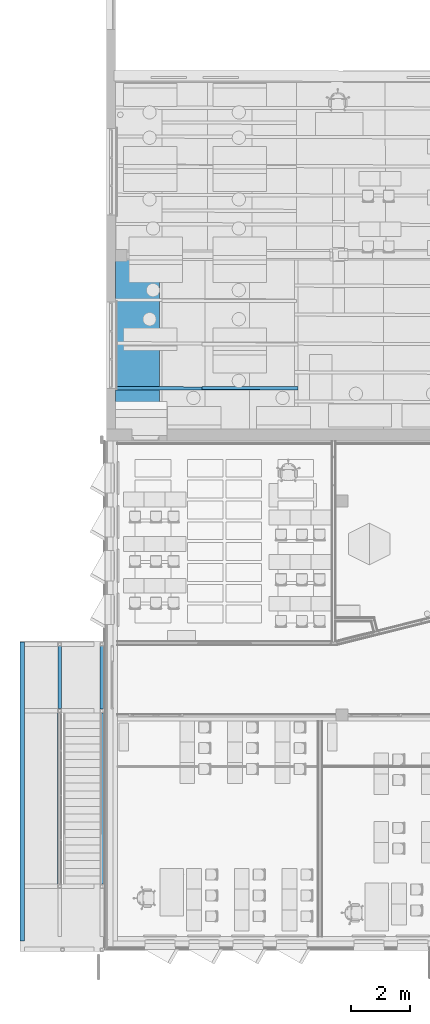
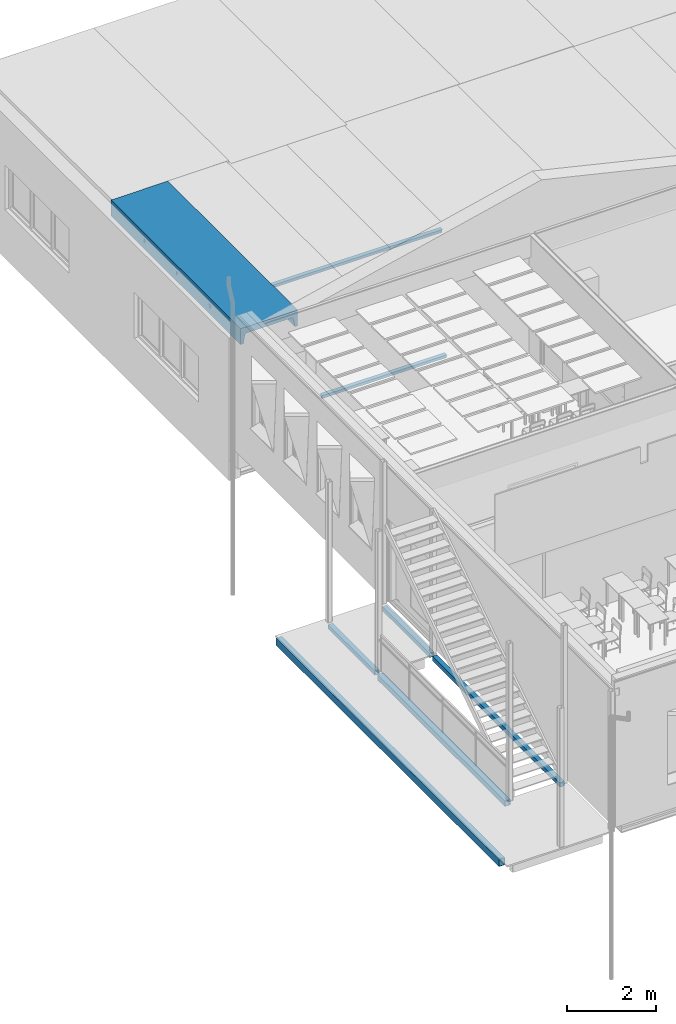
# One storey, part 13 of 153: 8 beams.
"""IFC2X3 building model written with IfcOpenShell, lengths in millimetres."""

from ifc_helpers import new_model, entity, si_unit, converted_unit, derived_unit, money_unit, direction, frame, origin_with_axes, place, context, subcontext, project, spatial, faceted_brep, material, type_object, element, save


model = new_model("IFC2X3")

# Units and contexts
model_context = context("Model", 3, precision=0.01, world=origin_with_axes(), true_north=direction((0.0, 1.0)))
body_context = subcontext(model_context, "Body", "Model", "MODEL_VIEW")
ifc_project = project(units=[si_unit("LENGTHUNIT", "METRE", prefix="MILLI"), si_unit("AREAUNIT", "SQUARE_METRE"), si_unit("VOLUMEUNIT", "CUBIC_METRE"), converted_unit("PLANEANGLEUNIT", "DEGREE", entity("IfcPlaneAngleMeasure", 0.0174532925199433), si_unit("PLANEANGLEUNIT", "RADIAN"), dimensions=[0, 0, 0, 0, 0, 0, 0]), money_unit("EUR"), converted_unit("TIMEUNIT", "Year", entity("IfcTimeMeasure", 31557600.0), si_unit("TIMEUNIT", "SECOND"), dimensions=[0, 0, 1, 0, 0, 0, 0]), si_unit("MASSUNIT", "GRAM", prefix="KILO"), si_unit("THERMODYNAMICTEMPERATUREUNIT", "DEGREE_CELSIUS"), si_unit("LUMINOUSINTENSITYUNIT", "LUMEN"), si_unit("ENERGYUNIT", "JOULE", prefix="MEGA"), derived_unit("THERMALCONDUCTANCEUNIT", [(si_unit("POWERUNIT", "WATT"), 1), (si_unit("LENGTHUNIT", "METRE"), -1), (si_unit("THERMODYNAMICTEMPERATUREUNIT", "KELVIN"), -1)]), derived_unit("SPECIFICHEATCAPACITYUNIT", [(si_unit("ENERGYUNIT", "JOULE"), 1), (si_unit("MASSUNIT", "GRAM", prefix="KILO"), -1), (si_unit("THERMODYNAMICTEMPERATUREUNIT", "KELVIN"), -1)]), derived_unit("MASSDENSITYUNIT", [(si_unit("MASSUNIT", "GRAM", prefix="KILO"), 1), (si_unit("VOLUMEUNIT", "CUBIC_METRE"), -1)])], contexts=[model_context])

# Site, building, storey
site_placement = place(None, frame((0.0, 0.0, 8650.0), z_axis=(0.0, 0.0, 1.0), x_axis=(1.0, 0.0, 0.0)))
site = spatial("IfcSite", under=ifc_project, at=site_placement, Name="43301:001:0844", CompositionType="ELEMENT")
building_placement = place(site_placement, origin_with_axes())
building = spatial("IfcBuilding", under=site, at=building_placement, Name="Kuressaare Ametikooli tuulikute mehaanikute õppekorpus", CompositionType="ELEMENT")
storey_placement = place(building_placement, frame((0.0, 0.0, 4100.0), z_axis=(0.0, 0.0, 1.0), x_axis=(1.0, 0.0, 0.0)))
storey = spatial("IfcBuildingStorey", under=building, at=storey_placement, Name="2.korrus", CompositionType="ELEMENT", Elevation=4100.0)

# Beams
ifc_material_1 = material(Name="STEEL/S355")
beam_type_1 = type_object("IfcBeamType", Name="IFC Footing Extruded", PredefinedType="NOTDEFINED")
beam_1_placement = place(storey_placement, frame((87796.2273876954, 16638.83806945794, -119.9999999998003), z_axis=(0.0, 0.0, 1.0), x_axis=(0.0, -1.0, 0.0)))
element("IfcBeam", 1, at=beam_1_placement, inside=storey, type_object=beam_type_1, material=ifc_material_1, Name="RAAM", context=body_context, shape_type="Brep", body=[
    faceted_brep([(5740.00000000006, 60.0, -60.0), (5740.00000000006, -60.0, -60.0), (0.0, -60.00000000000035, -59.99999999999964), (0.0, 59.99999999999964, -59.99999999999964), (5740.00000000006, 60.0, 60.0), (5740.00000000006, -60.0, 60.0), (5740.00000000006, 55.0, -55.0), (5740.00000000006, -55.0, -55.0), (5740.00000000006, -55.0, 55.0), (5740.00000000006, 55.0, 55.0), (0.0, -60.00000000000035, 60.00000000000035), (0.0, 59.99999999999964, 60.00000000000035), (0.0, 54.99999999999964, -54.99999999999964), (0.0, 54.99999999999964, 55.00000000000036), (0.0, -55.00000000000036, 55.00000000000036), (0.0, -55.00000000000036, -54.99999999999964)], [[[0, 1, 2, 3]], [[0, 4, 5, 1], [6, 7, 8, 9]], [[1, 5, 10, 2]], [[3, 2, 10, 11], [12, 13, 14, 15]], [[4, 0, 3, 11]], [[5, 4, 11, 10]], [[7, 6, 12, 15]], [[8, 7, 15, 14]], [[9, 8, 14, 13]], [[6, 9, 13, 12]]]),
])
beam_2_placement = place(storey_placement, frame((87796.2280694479, 16773.83806945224, -119.9999999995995), z_axis=(0.0, 0.0, 1.0), x_axis=(0.0, 1.0, 0.0)))
element("IfcBeam", 2, at=beam_2_placement, inside=storey, type_object=beam_type_1, material=ifc_material_1, Name="RAAM", context=body_context, shape_type="Brep", body=[
    faceted_brep([(2119.23999999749, 60.0, -60.0), (2119.23999999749, -60.0, -60.0), (-2.509548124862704e-09, -60.00000000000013, -59.99999999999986), (-2.509548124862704e-09, 59.99999999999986, -59.99999999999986), (2119.23999999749, 60.0, 60.0), (2119.23999999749, -60.0, 60.0), (2119.23999999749, 55.0, -55.0), (2119.23999999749, -55.0, -55.0), (2119.23999999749, -55.0, 55.0), (2119.23999999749, 55.0, 55.0), (-2.509548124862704e-09, -60.00000000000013, 60.00000000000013), (-2.509548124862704e-09, 59.99999999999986, 60.00000000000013), (-2.509548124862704e-09, 54.99999999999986, -54.99999999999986), (-2.509548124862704e-09, 54.99999999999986, 55.00000000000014), (-2.509548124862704e-09, -55.00000000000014, 55.00000000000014), (-2.509548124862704e-09, -55.00000000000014, -54.99999999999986)], [[[0, 1, 2, 3]], [[0, 4, 5, 1], [6, 7, 8, 9]], [[1, 5, 10, 2]], [[3, 2, 10, 11], [12, 13, 14, 15]], [[4, 0, 3, 11]], [[5, 4, 11, 10]], [[7, 6, 12, 15]], [[8, 7, 15, 14]], [[9, 8, 14, 13]], [[6, 9, 13, 12]]]),
])
beam_3_placement = place(storey_placement, frame((86381.22664518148, 16638.83806945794, -134.9999999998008), z_axis=(0.0, 0.0, 1.0), x_axis=(0.0, -1.0, 0.0)))
element("IfcBeam", 3, at=beam_3_placement, inside=storey, type_object=beam_type_1, material=ifc_material_1, Name="RAAM", context=body_context, shape_type="Brep", body=[
    faceted_brep([(5740.00000000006, 75.0, -75.0), (5740.00000000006, -75.0, -75.0), (0.0, -75.00000000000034, -74.99999999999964), (0.0, 74.99999999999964, -74.99999999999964), (5740.00000000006, 75.0, 75.0), (5740.00000000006, -75.0, 75.0), (5740.00000000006, 68.99999999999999, -68.99999999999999), (5740.00000000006, -68.99999999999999, -68.99999999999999), (5740.00000000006, -68.99999999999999, 68.99999999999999), (5740.00000000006, 68.99999999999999, 68.99999999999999), (0.0, -75.00000000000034, 75.00000000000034), (0.0, 74.99999999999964, 75.00000000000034), (0.0, 68.99999999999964, -68.99999999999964), (0.0, 68.99999999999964, 69.00000000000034), (0.0, -69.00000000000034, 69.00000000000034), (0.0, -69.00000000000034, -68.99999999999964)], [[[0, 1, 2, 3]], [[0, 4, 5, 1], [6, 7, 8, 9]], [[1, 5, 10, 2]], [[3, 2, 10, 11], [12, 13, 14, 15]], [[4, 0, 3, 11]], [[5, 4, 11, 10]], [[7, 6, 12, 15]], [[8, 7, 15, 14]], [[9, 8, 14, 13]], [[6, 9, 13, 12]]]),
])
beam_4_placement = place(storey_placement, frame((86381.22732693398, 16788.83806945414, -119.9999999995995), z_axis=(0.0, 0.0, 1.0), x_axis=(0.0, 1.0, 0.0)))
element("IfcBeam", 4, at=beam_4_placement, inside=storey, type_object=beam_type_1, material=ifc_material_1, Name="RAAM", context=body_context, shape_type="Brep", body=[
    faceted_brep([(2104.23999999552, 60.0, -60.0), (2104.23999999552, -60.0, -60.0), (-4.479971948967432e-09, -60.00000000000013, -59.99999999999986), (-4.479971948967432e-09, 59.99999999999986, -59.99999999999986), (2104.23999999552, 60.0, 60.0), (2104.23999999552, -60.0, 60.0), (2104.23999999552, 55.0, -55.0), (2104.23999999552, -55.0, -55.0), (2104.23999999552, -55.0, 55.0), (2104.23999999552, 55.0, 55.0), (-4.479971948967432e-09, -60.00000000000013, 60.00000000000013), (-4.479971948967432e-09, 59.99999999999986, 60.00000000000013), (-4.479971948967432e-09, 54.99999999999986, -54.99999999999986), (-4.479971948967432e-09, 54.99999999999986, 55.00000000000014), (-4.479971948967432e-09, -55.00000000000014, 55.00000000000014), (-4.479971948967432e-09, -55.00000000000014, -54.99999999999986)], [[[0, 1, 2, 3]], [[0, 4, 5, 1], [6, 7, 8, 9]], [[1, 5, 10, 2]], [[3, 2, 10, 11], [12, 13, 14, 15]], [[4, 0, 3, 11]], [[5, 4, 11, 10]], [[7, 6, 12, 15]], [[8, 7, 15, 14]], [[9, 8, 14, 13]], [[6, 9, 13, 12]]]),
])
beam_5_placement = place(storey_placement, frame((85121.22662386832, 19023.83806945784, -159.9999999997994), z_axis=(0.0, 0.0, 1.0), x_axis=(0.0, -1.0, 0.0)))
element("IfcBeam", 5, at=beam_5_placement, inside=storey, type_object=beam_type_1, material=ifc_material_1, Name="RAAM", context=body_context, shape_type="Brep", body=[
    faceted_brep([(10040.0, 75.0, -100.0), (10040.0, -75.0, -100.0), (0.0, -75.00000000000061, -99.99999999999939), (0.0, 74.99999999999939, -99.99999999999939), (10040.0, 75.0, 100.0), (10040.0, -75.0, 100.0), (10040.0, 68.99999999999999, -94.0), (10040.0, -68.99999999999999, -94.0), (10040.0, -68.99999999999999, 94.0), (10040.0, 68.99999999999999, 94.0), (0.0, -75.00000000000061, 100.0000000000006), (0.0, 74.99999999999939, 100.0000000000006), (0.0, 68.99999999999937, -93.99999999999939), (0.0, 68.99999999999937, 94.00000000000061), (0.0, -69.0000000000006, 94.00000000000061), (0.0, -69.0000000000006, -93.99999999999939)], [[[0, 1, 2, 3]], [[0, 4, 5, 1], [6, 7, 8, 9]], [[1, 5, 10, 2]], [[3, 2, 10, 11], [12, 13, 14, 15]], [[4, 0, 3, 11]], [[5, 4, 11, 10]], [[7, 6, 12, 15]], [[8, 7, 15, 14]], [[9, 8, 14, 13]], [[6, 9, 13, 12]]]),
])
ifc_material_2 = material(Name="GENEERILINE - KONSTRUKTRIOON")
beam_type_2 = type_object("IfcBeamType", Name="Precast Double Tee 2 1480 x 440", PredefinedType="NOTDEFINED")
beam_6_placement = place(storey_placement, frame((88998.75644683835, 32034.33665916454, 2975.0), z_axis=(0.0, 0.0, 1.0), x_axis=(-1.0, 0.0, 0.0)))
element("IfcBeam", 6, at=beam_6_placement, inside=storey, type_object=beam_type_2, material=ifc_material_2, context=body_context, shape_type="Brep", body=[
    faceted_brep([(665.9999970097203, 5851.267735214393, -440.0001340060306), (665.9999970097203, 125.1318435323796, -440.0001340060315), (665.2237829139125, 125.1297083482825, -434.9999999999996), (665.2237829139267, 119.6455667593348, -434.9999999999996), (637.8143926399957, 119.5473676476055, -258.4370837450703), (632.8231505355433, 138.7509672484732, -226.2850273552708), (631.9059644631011, 143.3008230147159, -220.376794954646), (631.9059644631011, 1472.683598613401, -220.376794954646), (639.8909784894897, 1484.844101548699, -271.8138152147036), (639.8909784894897, 1524.844244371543, -271.8138152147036), (631.9059644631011, 1537.046886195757, -220.376794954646), (631.9059644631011, 2928.433056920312, -220.376794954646), (639.8909784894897, 2940.593559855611, -271.8138152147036), (639.8909784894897, 2980.593702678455, -271.8138152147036), (631.9059644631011, 2992.796344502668, -220.376794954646), (631.9059644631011, 4438.240215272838, -220.376794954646), (639.8909784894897, 4450.400718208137, -271.8138152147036), (639.8909784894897, 4490.400861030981, -271.8138152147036), (631.9059644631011, 4502.603502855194, -220.376794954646), (631.9059644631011, 5851.267735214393, -220.376794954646), (739.9999999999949, 10.33496520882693, -440.0001340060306), (739.6836629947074, 125.3345301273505, -440.0001340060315), (739.9999999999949, 5851.267735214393, -440.0001340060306), (739.6836629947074, 125.3345301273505, -434.9999999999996), (739.9999999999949, 10.33496520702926, -434.9999999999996), (739.6052614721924, 119.9135136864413, -434.9999999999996), (739.605259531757, 119.9140523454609, -258.4370837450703), (739.5360178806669, 139.1353826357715, -226.2850273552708), (623.0831038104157, 161.5818210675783, -196.6139201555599), (626.2185466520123, 158.4037539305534, -200.7524729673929), (739.4536481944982, 162.0010266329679, -196.6139201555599), (626.2185466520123, 1468.051164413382, -200.7524729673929), (739.8911299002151, 1463.835878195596, -184.2363394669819), (739.9465555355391, 1484.576723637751, -271.8138152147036), (613.8801744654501, 1464.227180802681, -184.4667336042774), (613.5095393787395, 1464.173606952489, -184.2363394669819), (739.9999999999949, 1504.576194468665, -271.8138152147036), (739.9999999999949, 1524.576723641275, -271.8138152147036), (626.2185466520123, 1541.709512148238, -200.7524729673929), (739.9999999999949, 1545.316755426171, -184.2365347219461), (613.5098534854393, 1545.654774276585, -184.2365347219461), (613.8801744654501, 1545.599269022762, -184.4667336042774), (626.2185466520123, 2923.800622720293, -200.7524729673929), (739.9465555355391, 2940.326181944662, -271.8138152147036), (613.8801744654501, 2919.976639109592, -184.4667336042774), (613.5095393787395, 2919.923065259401, -184.2363394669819), (739.8911299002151, 2919.585336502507, -184.2363394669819), (739.9999999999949, 2960.325652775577, -271.8138152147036), (739.9999999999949, 2980.326181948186, -271.8138152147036), (739.9999999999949, 3001.066213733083, -184.2365347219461), (613.5098534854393, 3001.404232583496, -184.2365347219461), (613.8801744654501, 3001.348727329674, -184.4667336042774), (626.2185466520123, 2997.458970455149, -200.7524729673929), (626.2185466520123, 4433.607781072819, -200.7524729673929), (613.8801744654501, 4429.783797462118, -184.4667336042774), (613.5095393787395, 4429.730223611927, -184.2363394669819), (739.8911299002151, 4429.392494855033, -184.2363394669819), (739.9465555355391, 4450.133340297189, -271.8138152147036), (739.9999999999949, 4470.132811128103, -271.8138152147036), (739.9999999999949, 4490.133340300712, -271.8138152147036), (739.9999999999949, 4510.873372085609, -184.2365347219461), (613.5098534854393, 4511.211390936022, -184.2365347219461), (613.8801744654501, 4511.1558856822, -184.4667336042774), (626.2185466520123, 4507.266128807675, -200.7524729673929), (626.2185466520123, 5851.267735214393, -200.7524729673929), (-598.9726949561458, 5851.267735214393, -172.9350162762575), (-613.8457985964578, 5851.267735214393, -181.8998999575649), (-624.6465213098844, 5851.267735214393, -195.4985300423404), (-630.0119299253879, 5851.267735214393, -212.014908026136), (-670.9333333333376, 5851.267735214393, -440.0001340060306), (-739.9999999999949, 5851.267735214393, -440.0001340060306), (-739.9999999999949, 5851.267735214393, 0.0), (739.9999999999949, 5851.267735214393, 0.0), (613.8801744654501, 5851.267735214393, -184.4667336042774), (596.5276855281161, 5851.267735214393, -173.6800815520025), (576.463102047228, 5851.267735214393, -169.8234995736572), (-579.2780844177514, 5851.267735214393, -169.8234995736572), (-581.9040335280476, 5851.267735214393, -169.7351493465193), (739.9999999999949, 10.33496520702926, -169.8347433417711), (739.9999999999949, 0.0, 0.0), (739.9999999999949, 0.0, -169.8347433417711), (739.9999999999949, 1504.576194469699, -169.8663369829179), (739.9999999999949, 1558.090261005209, -169.8663369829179), (739.9999999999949, 1549.89138511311, -175.4406717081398), (739.9999999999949, 2960.325652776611, -169.8663369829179), (739.9999999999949, 3013.83971931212, -169.8663369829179), (739.9999999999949, 3005.640843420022, -175.4406717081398), (739.9999999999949, 4523.646877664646, -169.8663369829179), (739.9999999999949, 4515.448001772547, -175.4406717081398), (739.9999999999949, 4470.132811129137, -169.8663369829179), (739.359291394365, 188.1942671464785, -169.8347433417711), (613.8801744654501, 173.4302257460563, -184.4667336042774), (576.5215998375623, 187.6076713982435, -169.8347433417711), (596.5276855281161, 183.9184901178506, -173.6800815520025), (739.8789051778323, 1459.261260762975, -175.4405967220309), (739.8569957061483, 1451.062510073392, -169.8663369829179), (596.5276855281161, 1457.054912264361, -173.6800815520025), (599.359826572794, 1459.636769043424, -175.4405967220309), (599.3599472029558, 1550.267216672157, -175.4406717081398), (596.5276855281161, 1552.864306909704, -173.6800815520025), (596.5276855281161, 2912.804370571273, -173.6800815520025), (599.359826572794, 2915.386227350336, -175.4405967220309), (739.8789051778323, 2915.010719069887, -175.4405967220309), (739.8569957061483, 2906.811968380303, -169.8663369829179), (599.3599472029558, 3006.016674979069, -175.4406717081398), (596.5276855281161, 3008.613765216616, -173.6800815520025), (596.5276855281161, 4422.611528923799, -173.6800815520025), (599.359826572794, 4425.193385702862, -175.4405967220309), (739.8789051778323, 4424.817877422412, -175.4405967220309), (739.8569957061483, 4416.619126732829, -169.8663369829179), (599.3599472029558, 4515.823833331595, -175.4406717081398), (596.5276855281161, 4518.420923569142, -173.6800815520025), (-598.9726949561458, 4522.711513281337, -172.9350162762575), (-603.1296783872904, 4519.03723905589, -175.4406717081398), (-613.8457985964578, 4515.706503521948, -181.8998999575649), (-615.7016726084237, 4514.496205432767, -184.2365347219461), (-624.6465213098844, 4511.853045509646, -195.4985300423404), (-630.0119299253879, 4507.955978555, -212.014908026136), (-670.0358519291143, 114.8355156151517, -434.9999999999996), (-670.0358519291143, 121.4567202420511, -434.9999999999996), (-670.9333333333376, 121.4542514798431, -440.0001340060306), (-640.7453236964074, 4493.823097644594, -271.8138152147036), (-640.7453236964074, 4453.822954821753, -271.8138152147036), (-630.0119299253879, 4439.632083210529, -212.014908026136), (-630.0119299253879, 2998.148820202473, -212.014908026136), (-640.7453236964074, 2984.015939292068, -271.8138152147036), (-640.7453236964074, 2944.015796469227, -271.8138152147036), (-630.0119299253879, 2929.824924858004, -212.014908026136), (-630.0119299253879, 1542.399361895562, -212.014908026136), (-640.7453236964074, 1528.266480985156, -271.8138152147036), (-640.7453236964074, 1488.266338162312, -271.8138152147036), (-630.0119299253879, 1474.075466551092, -212.014908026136), (-630.0119299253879, 145.1990338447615, -212.014908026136), (-632.573294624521, 134.1925866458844, -226.2850273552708), (-638.3443144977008, 114.9502177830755, -258.4370837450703), (-739.9999999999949, 121.2642651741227, -440.0001340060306), (-739.9999999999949, 121.2642651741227, -434.9999999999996), (-739.9999999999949, 114.5834813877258, -434.9999999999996), (-739.9999999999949, 114.5840200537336, -258.4370837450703), (-739.9999999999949, 133.8055997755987, -226.2850273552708), (-739.9999999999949, 156.671540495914, -196.6139201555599), (-739.9999999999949, 182.8651209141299, -169.8347433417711), (-739.9999999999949, 0.0, -169.8347433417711), (-739.9999999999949, 0.0, -169.3128921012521), (-739.9999999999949, 6.465779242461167, -169.3128783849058), (-739.9999999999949, 6.465779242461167, 0.0), (-739.9999999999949, 1463.215932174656, -175.4405967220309), (-739.9999999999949, 1467.790582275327, -184.2363394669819), (-739.9999999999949, 1488.531575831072, -271.8138152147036), (-739.9999999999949, 1528.531718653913, -271.8138152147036), (-739.9999999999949, 1549.271750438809, -184.2365347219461), (-739.9999999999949, 1553.846380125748, -175.4406717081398), (-739.9999999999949, 1562.045256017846, -169.8663369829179), (-739.9999999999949, 1455.017122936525, -169.8663369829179), (-739.9999999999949, 2923.540040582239, -184.2363394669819), (-739.9999999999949, 2944.281034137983, -271.8138152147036), (-739.9999999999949, 2984.281176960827, -271.8138152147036), (-739.9999999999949, 3005.02120874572, -184.2365347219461), (-739.9999999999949, 3009.59583843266, -175.4406717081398), (-739.9999999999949, 3017.794714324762, -169.8663369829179), (-739.9999999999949, 2910.766581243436, -169.8663369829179), (-739.9999999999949, 2918.965390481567, -175.4405967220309), (-739.9999999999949, 4454.08819249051, -271.8138152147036), (-739.9999999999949, 4494.088335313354, -271.8138152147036), (-739.9999999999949, 4514.828367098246, -184.2365347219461), (-739.9999999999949, 4519.402996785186, -175.4406717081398), (-739.9999999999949, 4527.601872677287, -169.8663369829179), (-739.9999999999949, 4420.573739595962, -169.8663369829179), (-739.9999999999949, 4428.772548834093, -175.4405967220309), (-739.9999999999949, 4433.347198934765, -184.2363394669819), (716.6037461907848, 15.13027707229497, 0.0), (716.6937475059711, 0.0, 0.0), (576.5215998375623, 14.29700896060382, -169.8347433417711), (576.463102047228, 14.29666099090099, -169.8234995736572), (576.6859716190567, 4524.083300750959, -169.8663369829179), (576.6859716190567, 4417.055167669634, -169.8663369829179), (576.6859716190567, 3014.276142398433, -169.8663369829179), (576.6859716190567, 2907.248009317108, -169.8663369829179), (576.6859716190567, 1558.526684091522, -169.8663369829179), (576.6859716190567, 1451.498551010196, -169.8663369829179), (480.7517387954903, 13.72732914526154, -169.8234995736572), (480.8333947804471, 0.0, -169.8234995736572), (-579.2780844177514, 0.0, -169.8234995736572), (-581.9040335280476, 0.0, -169.7351493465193), (-598.9726949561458, 3012.904354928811, -172.9350162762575), (-598.9726949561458, 4424.710390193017, -172.9350162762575), (-582.6038117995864, 4420.153130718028, -169.8663369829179), (-582.6038117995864, 4527.181263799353, -169.8663369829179), (-582.4352856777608, 0.0, -169.8347433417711), (-582.4352856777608, 183.4327216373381, -169.8347433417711), (-598.9726949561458, 180.3406709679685, -172.9350162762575), (-598.9726949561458, 1459.153773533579, -172.9350162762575), (-582.6038117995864, 1454.59651405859, -169.8663369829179), (-582.6038117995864, 1561.624647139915, -169.8663369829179), (-598.9726949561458, 1557.154896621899, -172.9350162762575), (-598.9726949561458, 2914.903231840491, -172.9350162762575), (-582.6038117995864, 2910.345972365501, -169.8663369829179), (-582.6038117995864, 3017.374105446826, -169.8663369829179), (716.6937475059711, 0.0, -169.8347433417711), (716.6037461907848, 15.13027707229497, -169.8347433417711), (-624.6465213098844, 4435.706167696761, -195.4985300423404), (-615.7015175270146, 4433.015036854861, -184.2363394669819), (-624.6465213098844, 3002.04588715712, -195.4985300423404), (-615.7016726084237, 3004.689047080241, -184.2365347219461), (-615.7015175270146, 2923.207878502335, -184.2363394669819), (-624.6465213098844, 2925.899009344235, -195.4985300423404), (-624.6465213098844, 1546.296428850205, -195.4985300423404), (-615.7016726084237, 1548.939588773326, -184.2365347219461), (-615.7015175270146, 1467.45842019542, -184.2363394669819), (-624.6465213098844, 1470.149551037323, -195.4985300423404), (-624.6465213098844, 158.1780814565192, -195.4985300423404), (-625.0088600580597, 157.0857769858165, -196.6139201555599), (-613.8457985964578, 171.5182499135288, -181.8998999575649), (475.9485766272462, 0.0, -168.8792506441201), (475.867093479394, 13.69827319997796, -168.8792506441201), (-603.1295539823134, 1462.850174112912, -175.4405967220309), (-613.8457985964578, 1466.238283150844, -181.8998999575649), (-613.8457985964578, 1550.14988686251, -181.8998999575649), (-603.1296783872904, 1553.480622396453, -175.4406717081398), (-613.8457985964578, 3005.899345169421, -181.8998999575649), (-603.1296783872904, 3009.230080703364, -175.4406717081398), (-603.1295539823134, 2918.599632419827, -175.4405967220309), (-613.8457985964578, 2921.987741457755, -181.8998999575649), (-603.1295539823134, 4428.406790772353, -175.4405967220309), (-613.8457985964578, 4431.794899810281, -181.8998999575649)], [[[0, 1, 2, 3, 4, 5, 6, 7, 8, 9, 10, 11, 12, 13, 14, 15, 16, 17, 18, 19]], [[20, 21, 1, 0, 22]], [[23, 2, 1, 21]], [[24, 25, 3, 2, 23]], [[4, 3, 25, 26]], [[26, 27, 5, 4]], [[28, 29, 6, 5, 27, 30]], [[29, 31, 7, 6]], [[32, 33, 8, 7, 31, 34, 35]], [[9, 8, 33, 36, 37]], [[38, 10, 9, 37, 39, 40, 41]], [[42, 11, 10, 38]], [[43, 12, 11, 42, 44, 45, 46]], [[12, 43, 47, 48, 13]], [[14, 13, 48, 49, 50, 51, 52]], [[15, 14, 52, 53]], [[16, 15, 53, 54, 55, 56, 57]], [[57, 58, 59, 17, 16]], [[17, 59, 60, 61, 62, 63, 18]], [[63, 64, 19, 18]], [[65, 66, 67, 68, 69, 70, 71, 72, 22, 0, 19, 64, 73, 74, 75, 76, 77]], [[23, 21, 20, 24]], [[78, 24, 20, 22, 72, 79, 80], [36, 81, 82, 83, 39, 37], [84, 85, 86, 49, 48, 47], [87, 88, 60, 59, 58, 89]], [[26, 25, 24, 78, 90, 30, 27]], [[34, 31, 29, 28, 91]], [[92, 93, 91, 28, 30, 90]], [[36, 33, 32, 94, 95, 81]], [[34, 91, 93, 96, 97, 35]], [[32, 35, 97, 94]], [[83, 98, 40, 39]], [[98, 99, 100, 101, 45, 44, 41, 40]], [[44, 42, 38, 41]], [[45, 101, 102, 46]], [[43, 46, 102, 103, 84, 47]], [[104, 50, 49, 86]], [[105, 106, 107, 55, 54, 51, 50, 104]], [[53, 52, 51, 54]], [[107, 108, 56, 55]], [[56, 108, 109, 89, 58, 57]], [[61, 60, 88, 110]], [[73, 62, 61, 110, 111, 74]], [[62, 73, 64, 63]], [[66, 65, 112, 113, 114]], [[67, 66, 114, 115, 116]], [[117, 68, 67, 116]], [[118, 119, 120, 69, 68, 117, 121, 122, 123, 124, 125, 126, 127, 128, 129, 130, 131, 132, 133, 134]], [[69, 120, 135, 70]], [[70, 135, 136, 137, 138, 139, 140, 141, 142, 143, 144, 145, 71], [146, 147, 148, 149, 150, 151, 152, 153], [154, 155, 156, 157, 158, 159, 160, 161], [162, 163, 164, 165, 166, 167, 168, 169]], [[71, 145, 170, 171, 79, 72]], [[93, 92, 172, 173, 75, 74, 111, 174, 175, 106, 105, 176, 177, 100, 99, 178, 179, 96]], [[75, 173, 180, 181, 182, 76]], [[76, 182, 183, 77]], [[184, 185, 186, 187, 112, 65, 77, 183, 188, 189, 190, 191, 192, 193, 194, 195, 196, 197]], [[80, 79, 171, 198]], [[80, 198, 199, 172, 92, 90, 78]], [[179, 178, 82, 81, 95]], [[178, 99, 98, 83, 82]], [[176, 85, 84, 103, 177]], [[105, 104, 86, 85, 176]], [[110, 88, 87, 174, 111]], [[87, 89, 109, 175, 174]], [[96, 179, 95, 94, 97]], [[177, 103, 102, 101, 100]], [[109, 108, 107, 106, 175]], [[113, 112, 187, 166, 165]], [[115, 114, 113, 165, 164]], [[117, 116, 115, 164, 163, 121]], [[119, 118, 137, 136]], [[119, 136, 135, 120]], [[162, 122, 121, 163]], [[200, 123, 122, 162, 169, 201]], [[200, 202, 124, 123]], [[125, 124, 202, 203, 157, 156]], [[156, 155, 126, 125]], [[204, 205, 127, 126, 155, 154]], [[127, 205, 206, 128]], [[149, 129, 128, 206, 207, 150]], [[129, 149, 148, 130]], [[147, 208, 209, 131, 130, 148]], [[131, 209, 210, 211, 132]], [[211, 140, 139, 133, 132]], [[134, 133, 139, 138]], [[138, 137, 118, 134]], [[140, 211, 210, 212, 190, 189, 141]], [[141, 189, 188, 142]], [[183, 182, 181, 213, 143, 142, 188]], [[213, 214, 144, 143]], [[172, 199, 170, 145, 144, 214, 180, 173]], [[147, 146, 215, 216, 208]], [[151, 150, 207, 217, 218]], [[152, 151, 218, 194, 193]], [[192, 153, 152, 193]], [[146, 153, 192, 191, 215]], [[157, 203, 219, 220, 158]], [[158, 220, 184, 197, 159]], [[160, 159, 197, 196]], [[160, 196, 195, 221, 161]], [[161, 221, 222, 204, 154]], [[166, 187, 186, 167]], [[186, 185, 223, 168, 167]], [[223, 224, 201, 169, 168]], [[199, 198, 171, 170]], [[180, 214, 213, 181]], [[220, 219, 224, 223, 185, 184]], [[215, 191, 190, 212, 216]], [[194, 218, 217, 222, 221, 195]], [[203, 202, 200, 201, 224, 219]], [[217, 207, 206, 205, 204, 222]], [[208, 216, 212, 210, 209]]]),
])
beam_type_3 = type_object("IfcBeamType", Name="Precast Single Tee 2 107 x 102", PredefinedType="NOTDEFINED")
beam_7_placement = place(storey_placement, frame((88258.75644683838, 27564.20384804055, 2805.133663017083), z_axis=(0.0, 0.0, 1.0), x_axis=(-0.002672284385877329, -0.9999964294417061, 0.0)))
element("IfcBeam", 7, at=beam_7_placement, inside=storey, type_object=beam_type_3, material=ifc_material_2, context=body_context, shape_type="Brep", body=[
    faceted_brep([(45.31502884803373, 0.0, -5.574334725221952), (45.31502884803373, 6006.888552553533, -5.574334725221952), (53.51387546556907, 6006.888552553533, 0.0), (53.51387546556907, 0.0, 0.0), (40.74041549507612, 0.0, -14.37019773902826), (40.74041549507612, 6006.888552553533, -14.37019773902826), (20.00045776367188, 6006.888552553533, -101.9474782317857), (-19.99954223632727, 6006.888552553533, -101.9474782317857), (-40.7404617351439, 6006.888552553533, -14.37000248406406), (-45.31509550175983, 6006.88855255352, -5.574259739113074), (-53.51387546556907, 6006.88855255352, 0.0), (-53.51387546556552, 0.0, 0.0), (-45.31509550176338, 0.0, -5.574259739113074), (-40.7404617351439, 0.0, -14.37000248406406), (-19.99954223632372, 0.0, -101.9474782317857), (20.00045776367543, 0.0, -101.9474782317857)], [[[0, 1, 2, 3]], [[4, 5, 1, 0]], [[2, 1, 5, 6, 7, 8, 9, 10]], [[3, 2, 10, 11]], [[4, 0, 3, 11, 12, 13, 14, 15]], [[15, 6, 5, 4]], [[14, 7, 6, 15]], [[13, 8, 7, 14]], [[12, 9, 8, 13]], [[11, 10, 9, 12]]]),
])
beam_8_placement = place(storey_placement, frame((91159.67655181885, 27569.47325642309, -689.9999999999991), z_axis=(0.0, 0.0, 1.0), x_axis=(-0.002672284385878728, -0.9999964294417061, 0.0)))
element("IfcBeam", 8, at=beam_8_placement, inside=storey, type_object=beam_type_3, material=ifc_material_2, context=body_context, shape_type="Brep", body=[
    faceted_brep([(45.31502884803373, 0.0, -5.574334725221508), (45.31502884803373, 3233.087410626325, -5.574334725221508), (53.51387546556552, 3233.087410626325, 0.0), (53.51387546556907, 0.0, 0.0), (40.74041549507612, 0.0, -14.37019773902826), (40.74041549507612, 3233.087410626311, -14.37019773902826), (20.00045776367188, 3233.087410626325, -101.9474782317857), (-19.99954223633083, 3233.087410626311, -101.9474782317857), (-40.74046173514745, 3233.087410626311, -14.3700024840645), (-45.31509550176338, 3233.087410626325, -5.574259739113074), (-53.51387546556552, 3233.087410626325, 0.0), (-53.51387546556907, 0.0, 0.0), (-45.31509550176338, 0.0, -5.574259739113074), (-40.7404617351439, 0.0, -14.3700024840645), (-19.99954223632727, 0.0, -101.9474782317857), (20.00045776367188, 0.0, -101.9474782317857)], [[[0, 1, 2, 3]], [[4, 5, 1, 0]], [[2, 1, 5, 6, 7, 8, 9, 10]], [[3, 2, 10, 11]], [[4, 0, 3, 11, 12, 13, 14, 15]], [[15, 6, 5, 4]], [[14, 7, 6, 15]], [[13, 8, 7, 14]], [[12, 9, 8, 13]], [[11, 10, 9, 12]]]),
])

save(model, "model.ifc")
